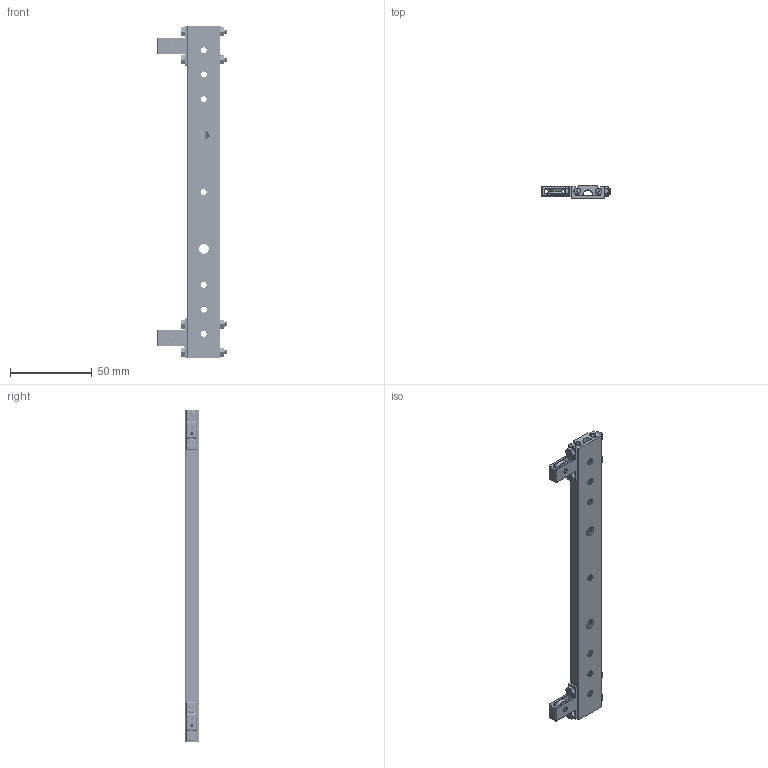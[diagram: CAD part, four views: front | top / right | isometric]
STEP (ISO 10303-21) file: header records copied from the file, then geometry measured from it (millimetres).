
FILE_DESCRIPTION( ('This file contains a STEP AP42 implementation' ,'as created by ZW3D STEP Interface translator.') ,'2;1' );
FILE_NAME( 'BL-200A-2M.stp' ,'241030.111441', (''), ('ZWCAD Software Co.'), 'Version 1.0', 'ZW3D to STEP translator', '' );
FILE_SCHEMA(('AUTOMOTIVE_DESIGN { 1 0 10303 214 1 1 1 1 }'));
Length unit declared in the file: millimetre
Products named in the file (13): 0; BL-200A-2M; OuterSlide200A; InnerSlide200A; BallBearing; M2; PulleyModule; VPulley; NoHeadScrew001; PulleyBracketV4; PulleyModule1; M3; StopperScrew
Assembly tree (48 placements, depth 3):
  0
  BL-200A-2M
    OuterSlide200A
    InnerSlide200A
    BallBearing  x20
    M2  x2
    PulleyModule
      VPulley
      NoHeadScrew001
      PulleyBracketV4
    PulleyModule1
      VPulley
      NoHeadScrew001
      PulleyBracketV4
    M3  x8
    StopperScrew  x8
Bounding box: 42.55 x 8.18 x 203.2 mm (x, y, z)
Volume: 22836.3 mm3; surface area: 29313.6 mm2
Topology: 52 solids, 54 shells, 1387 faces, 3561 edges, 2192 vertices
Faces by surface type: cylinder 597, cone 304, plane 237, bspline 188, sphere 40, torus 21
Full cylindrical faces by diameter (mm): 2 x33, 2.5 x16, 3 x104, 3.05 x4, 3.6 x63, 6 x3
Entity records: 40341 total; most frequent: CARTESIAN_POINT 27136, ORIENTED_EDGE 3080, DIRECTION 1958, EDGE_CURVE 1542, VERTEX_POINT 989, AXIS2_PLACEMENT_3D 745, EDGE_LOOP 638, FACE_OUTER_BOUND 570
